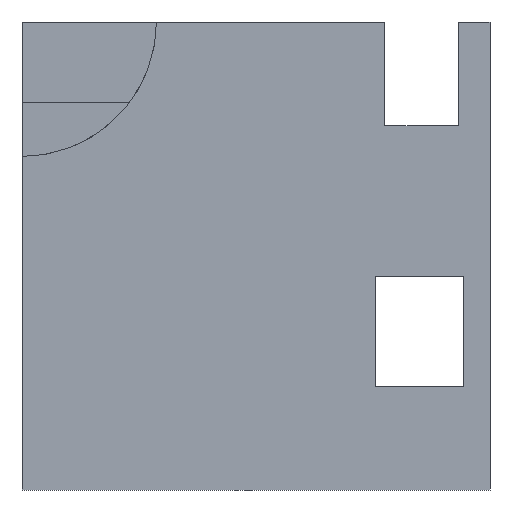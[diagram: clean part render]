
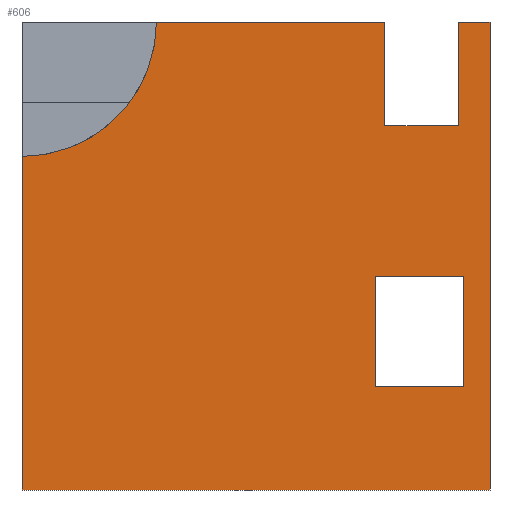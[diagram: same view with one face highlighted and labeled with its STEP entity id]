
A CAD part, left-side view. The second image highlights one B-rep face of the part: STEP entity #606.
In plain terms, the highlighted planar face has unit normal (-1, 0, 0).
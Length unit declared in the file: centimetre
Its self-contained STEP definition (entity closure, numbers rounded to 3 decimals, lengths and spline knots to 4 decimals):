
#21 = ORIENTED_EDGE ( 'NONE', *, *, #769, .F. ) ;
#25 = LINE ( 'NONE', #472, #1082 ) ;
#30 = CARTESIAN_POINT ( 'NONE',  ( 0., 67.3075, 778.1066 ) ) ;
#33 = DIRECTION ( 'NONE',  ( 0., 0., -1. ) ) ;
#39 = CARTESIAN_POINT ( 'NONE',  ( 0., 244.5058, 221.3538 ) ) ;
#44 = VERTEX_POINT ( 'NONE', #336 ) ;
#51 = EDGE_CURVE ( 'NONE', #44, #1187, #352, .T. ) ;
#66 = VECTOR ( 'NONE', #558, 100. ) ;
#80 = DIRECTION ( 'NONE',  ( 0., -1., 0. ) ) ;
#86 = VECTOR ( 'NONE', #621, 100. ) ;
#87 = CARTESIAN_POINT ( 'NONE',  ( 0., 224.8167, 778.1066 ) ) ;
#113 = CARTESIAN_POINT ( 'NONE',  ( 0., 67.3075, 778.1066 ) ) ;
#153 = LINE ( 'NONE', #701, #477 ) ;
#159 = VECTOR ( 'NONE', #819, 100. ) ;
#164 = VERTEX_POINT ( 'NONE', #454 ) ;
#182 = CARTESIAN_POINT ( 'NONE',  ( 0., 1000., 1000. ) ) ;
#185 = VERTEX_POINT ( 'NONE', #360 ) ;
#201 = LINE ( 'NONE', #553, #214 ) ;
#202 = ORIENTED_EDGE ( 'NONE', *, *, #441, .F. ) ;
#214 = VECTOR ( 'NONE', #80, 100. ) ;
#218 = EDGE_LOOP ( 'NONE', ( #298, #235, #538, #832, #760, #240, #521, #745, #380 ) ) ;
#234 = DIRECTION ( 'NONE',  ( 0., 0., -1. ) ) ;
#235 = ORIENTED_EDGE ( 'NONE', *, *, #664, .F. ) ;
#238 = EDGE_CURVE ( 'NONE', #264, #999, #273, .T. ) ;
#240 = ORIENTED_EDGE ( 'NONE', *, *, #932, .T. ) ;
#242 = CARTESIAN_POINT ( 'NONE',  ( 0., 1000., 1000. ) ) ;
#264 = VERTEX_POINT ( 'NONE', #920 ) ;
#271 = VERTEX_POINT ( 'NONE', #816 ) ;
#273 = LINE ( 'NONE', #113, #414 ) ;
#276 = CARTESIAN_POINT ( 'NONE',  ( 0., 1000., 1000. ) ) ;
#281 = CARTESIAN_POINT ( 'NONE',  ( 0., 712.7541, 1000. ) ) ;
#294 = DIRECTION ( 'NONE',  ( 0., -1., 0. ) ) ;
#298 = ORIENTED_EDGE ( 'NONE', *, *, #238, .F. ) ;
#299 = VERTEX_POINT ( 'NONE', #281 ) ;
#301 = DIRECTION ( 'NONE',  ( 0., 0., 1. ) ) ;
#307 = VERTEX_POINT ( 'NONE', #375 ) ;
#312 = VECTOR ( 'NONE', #33, 100. ) ;
#313 = VECTOR ( 'NONE', #918, 100. ) ;
#325 = VERTEX_POINT ( 'NONE', #746 ) ;
#336 = CARTESIAN_POINT ( 'NONE',  ( 0., 1000., 712.7541 ) ) ;
#338 = CARTESIAN_POINT ( 'NONE',  ( 0., 67.3075, 778.1066 ) ) ;
#342 = FACE_OUTER_BOUND ( 'NONE', #218, .T. ) ;
#352 = LINE ( 'NONE', #242, #517 ) ;
#360 = CARTESIAN_POINT ( 'NONE',  ( 0., 224.8167, 1000. ) ) ;
#368 = LINE ( 'NONE', #182, #313 ) ;
#375 = CARTESIAN_POINT ( 'NONE',  ( 0., 244.5058, 456.733 ) ) ;
#377 = LINE ( 'NONE', #854, #312 ) ;
#380 = ORIENTED_EDGE ( 'NONE', *, *, #426, .F. ) ;
#389 = LINE ( 'NONE', #1128, #479 ) ;
#414 = VECTOR ( 'NONE', #725, 100. ) ;
#426 = EDGE_CURVE ( 'NONE', #999, #271, #1033, .T. ) ;
#436 = CIRCLE ( 'NONE', #1046, 287.2459 ) ;
#441 = EDGE_CURVE ( 'NONE', #325, #307, #389, .T. ) ;
#454 = CARTESIAN_POINT ( 'NONE',  ( 0., 56.4173, 221.3538 ) ) ;
#462 = VERTEX_POINT ( 'NONE', #39 ) ;
#472 = CARTESIAN_POINT ( 'NONE',  ( 0., 56.4173, 221.3538 ) ) ;
#477 = VECTOR ( 'NONE', #234, 100. ) ;
#479 = VECTOR ( 'NONE', #562, 100. ) ;
#517 = VECTOR ( 'NONE', #981, 100. ) ;
#520 = PLANE ( 'NONE',  #968 ) ;
#521 = ORIENTED_EDGE ( 'NONE', *, *, #552, .F. ) ;
#538 = ORIENTED_EDGE ( 'NONE', *, *, #1115, .F. ) ;
#552 = EDGE_CURVE ( 'NONE', #955, #618, #153, .T. ) ;
#553 = CARTESIAN_POINT ( 'NONE',  ( 0., 1000., 1000. ) ) ;
#558 = DIRECTION ( 'NONE',  ( 0., 0., 1. ) ) ;
#562 = DIRECTION ( 'NONE',  ( 0., 1., 0. ) ) ;
#576 = CARTESIAN_POINT ( 'NONE',  ( 0., 0., 1000. ) ) ;
#583 = VECTOR ( 'NONE', #631, 100. ) ;
#606 = ADVANCED_FACE ( 'NONE', ( #894, #342 ), #520, .F. ) ;
#618 = VERTEX_POINT ( 'NONE', #1019 ) ;
#620 = EDGE_LOOP ( 'NONE', ( #722, #809, #21, #202 ) ) ;
#621 = DIRECTION ( 'NONE',  ( 0., -1., 0. ) ) ;
#630 = DIRECTION ( 'NONE',  ( -1., 0., 0. ) ) ;
#631 = DIRECTION ( 'NONE',  ( 0., 0., 1. ) ) ;
#644 = LINE ( 'NONE', #813, #583 ) ;
#663 = EDGE_CURVE ( 'NONE', #164, #325, #644, .T. ) ;
#664 = EDGE_CURVE ( 'NONE', #185, #264, #919, .T. ) ;
#682 = LINE ( 'NONE', #1099, #86 ) ;
#701 = CARTESIAN_POINT ( 'NONE',  ( 0., 0., 1000. ) ) ;
#722 = ORIENTED_EDGE ( 'NONE', *, *, #663, .F. ) ;
#725 = DIRECTION ( 'NONE',  ( 0., -1., 0. ) ) ;
#745 = ORIENTED_EDGE ( 'NONE', *, *, #753, .F. ) ;
#746 = CARTESIAN_POINT ( 'NONE',  ( 0., 56.4173, 456.733 ) ) ;
#753 = EDGE_CURVE ( 'NONE', #271, #955, #201, .T. ) ;
#760 = ORIENTED_EDGE ( 'NONE', *, *, #51, .T. ) ;
#769 = EDGE_CURVE ( 'NONE', #307, #462, #377, .T. ) ;
#809 = ORIENTED_EDGE ( 'NONE', *, *, #1035, .F. ) ;
#813 = CARTESIAN_POINT ( 'NONE',  ( 0., 56.4173, 221.3538 ) ) ;
#816 = CARTESIAN_POINT ( 'NONE',  ( 0., 67.3075, 1000. ) ) ;
#819 = DIRECTION ( 'NONE',  ( 0., 0., -1. ) ) ;
#832 = ORIENTED_EDGE ( 'NONE', *, *, #1101, .F. ) ;
#854 = CARTESIAN_POINT ( 'NONE',  ( 0., 244.5058, 221.3538 ) ) ;
#894 = FACE_BOUND ( 'NONE', #620, .T. ) ;
#897 = DIRECTION ( 'NONE',  ( 0., 0., -1. ) ) ;
#918 = DIRECTION ( 'NONE',  ( 0., -1., 0. ) ) ;
#919 = LINE ( 'NONE', #87, #159 ) ;
#920 = CARTESIAN_POINT ( 'NONE',  ( 0., 224.8167, 778.1066 ) ) ;
#932 = EDGE_CURVE ( 'NONE', #1187, #618, #682, .T. ) ;
#952 = CARTESIAN_POINT ( 'NONE',  ( 0., 1000., 0. ) ) ;
#955 = VERTEX_POINT ( 'NONE', #576 ) ;
#968 = AXIS2_PLACEMENT_3D ( 'NONE', #1078, #974, #897 ) ;
#974 = DIRECTION ( 'NONE',  ( 1., 0., 0. ) ) ;
#981 = DIRECTION ( 'NONE',  ( 0., 0., -1. ) ) ;
#999 = VERTEX_POINT ( 'NONE', #338 ) ;
#1019 = CARTESIAN_POINT ( 'NONE',  ( 0., 0., 0. ) ) ;
#1033 = LINE ( 'NONE', #30, #66 ) ;
#1035 = EDGE_CURVE ( 'NONE', #462, #164, #25, .T. ) ;
#1046 = AXIS2_PLACEMENT_3D ( 'NONE', #276, #630, #301 ) ;
#1078 = CARTESIAN_POINT ( 'NONE',  ( 0., 1000., 1000. ) ) ;
#1082 = VECTOR ( 'NONE', #294, 100. ) ;
#1099 = CARTESIAN_POINT ( 'NONE',  ( 0., 1000., 0. ) ) ;
#1101 = EDGE_CURVE ( 'NONE', #44, #299, #436, .T. ) ;
#1115 = EDGE_CURVE ( 'NONE', #299, #185, #368, .T. ) ;
#1128 = CARTESIAN_POINT ( 'NONE',  ( 0., 56.4173, 456.733 ) ) ;
#1187 = VERTEX_POINT ( 'NONE', #952 ) ;
